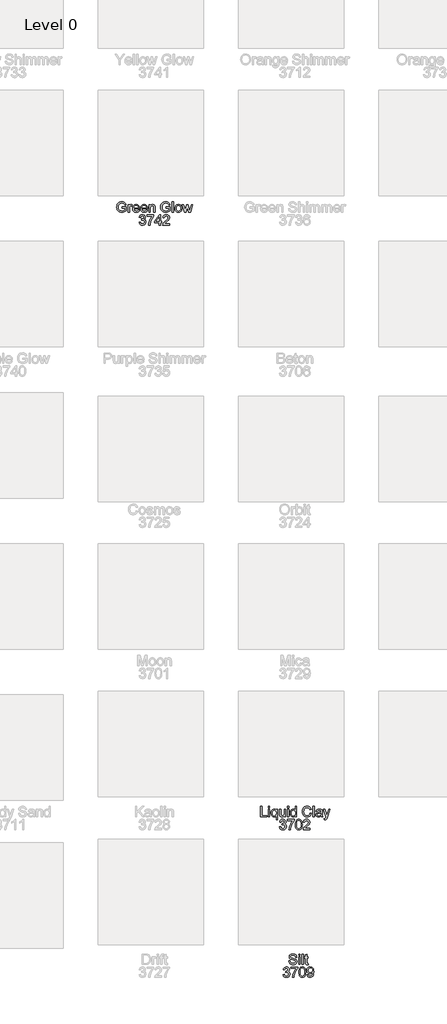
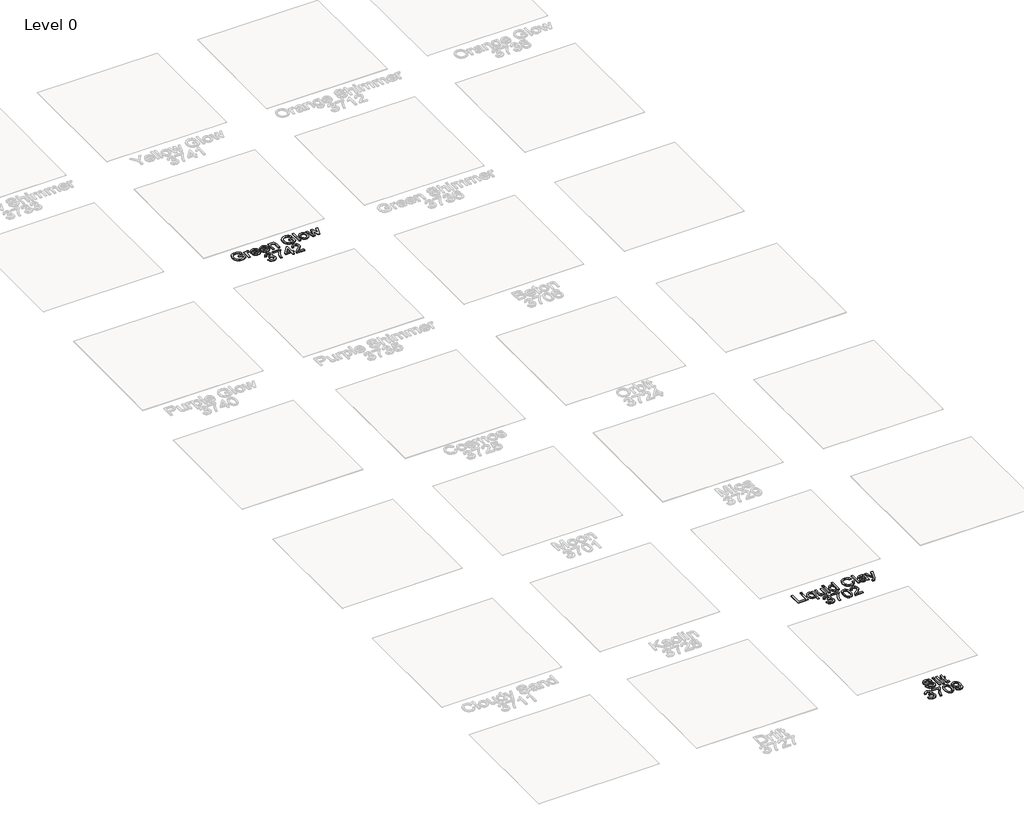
# One storey, part 6 of 14: 3 proxies.
"""IFC4 building model written with IfcOpenShell, lengths in millimetres."""

from ifc_helpers import new_model, si_unit, origin, origin_with_axes, place, context, project, spatial, polyline, outline, extrude, element, save

model = new_model("IFC4")

# Units and contexts
model_context = context("Model", 3, world=origin())
ifc_project = project(units=[si_unit("LENGTHUNIT", "METRE", prefix="MILLI")], contexts=[model_context])

# Site, building, storey
site = spatial("IfcSite", under=ifc_project)
building = spatial("IfcBuilding", under=site)
storey = spatial("IfcBuildingStorey", under=building, Name="Level 0", Elevation=0.0)

# Proxies
placement = place(None, origin())
element("IfcBuildingElementProxy", 1, Name="300mm Arial", ObjectType="300mm Arial", at=placement, inside=storey, context=model_context, shape_type="SweptSolid", body=[
    extrude(outline(polyline([(-4770.806034, -2021.7884025), (-4770.806034, -1984.8653255), (-4650.806034, -1984.8653255), (-4650.806034, -2095.2739794), (-4679.9676927, -2115.5564313), (-4710.0488225, -2130.1057102), (-4740.9773081, -2138.8677294), (-4772.681034, -2141.7884025), (-4814.1023081, -2137.1459746), (-4851.5392071, -2123.2186909), (-4882.6389667, -2100.4933304), (-4905.0488225, -2069.4566717), (-4918.5975004, -2032.2271044), (-4923.1137264, -1990.9230179), (-4918.6155292, -1949.3214554), (-4905.1209379, -1910.6225371), (-4883.1888465, -1878.1615996), (-4853.3781494, -1855.2739794), (-4817.0680533, -1841.6982582), (-4775.6377648, -1837.1730179), (-4745.2231014, -1839.796215), (-4717.8733417, -1847.6658063), (-4694.8414908, -1860.2138832), (-4677.3805533, -1876.8725371), (-4664.462885, -1898.4440515), (-4655.0608417, -1925.7307102), (-4689.0993033, -1935.3220563), (-4696.6984619, -1915.8599169), (-4705.9382456, -1901.1754217), (-4718.1618033, -1890.1057102), (-4734.712284, -1881.4879217), (-4754.4448562, -1875.9440515), (-4776.2146879, -1874.0960948), (-4801.6984619, -1876.0882823), (-4823.4863225, -1882.0648448), (-4841.4971398, -1891.2775852), (-4855.649784, -1902.9783063), (-4874.6521879, -1931.4278255), (-4883.306034, -1959.3004217), (-4886.1906494, -1989.4085948), (-4882.7200965, -2024.71809), (-4872.3084379, -2053.7715755), (-4855.2711783, -2076.3617198), (-4831.9238225, -2092.2811909), (-4804.6011062, -2101.7192919), (-4775.6377648, -2104.8653255), (-4750.0638465, -2102.4945323), (-4725.1209379, -2095.3821525), (-4703.4592792, -2085.5834746), (-4687.729111, -2075.1537871), (-4687.729111, -2021.7884025), (-4770.806034, -2021.7884025)])), origin_with_axes(), (0.0, 0.0, 1.0), 20.0),
    extrude(outline(polyline([(-4595.4214187, -2137.1730179), (-4595.4214187, -1920.2499409), (-4563.1137264, -1920.2499409), (-4563.1137264, -1952.3412871), (-4551.1786302, -1933.7355179), (-4540.181034, -1922.7739794), (-4529.1473802, -1917.4194121), (-4517.104111, -1915.6345563), (-4498.7146879, -1918.483114), (-4480.0368033, -1927.0287871), (-4492.368534, -1960.1297486), (-4505.3493033, -1954.4506621), (-4518.3300725, -1952.5576332), (-4529.3547119, -1954.3785467), (-4539.2074764, -1959.8412871), (-4547.1672119, -1968.5311909), (-4552.5127648, -1980.0335948), (-4557.0019475, -2000.6585948), (-4558.4983417, -2023.1585948), (-4558.4983417, -2137.1730179), (-4595.4214187, -2137.1730179)])), origin_with_axes(), (0.0, 0.0, 1.0), 20.0),
    extrude(outline(polyline([(-4305.0848802, -2072.5576332), (-4268.8829571, -2077.1730179), (-4281.9268273, -2104.4506621), (-4302.7411302, -2124.8412871), (-4330.8571158, -2137.5516236), (-4365.806034, -2141.7884025), (-4388.7161903, -2139.9607282), (-4409.1293514, -2134.4777054), (-4427.0455172, -2125.339334), (-4442.4646879, -2112.545614), (-4454.8640268, -2096.4526152), (-4463.7206975, -2077.4164073), (-4469.0346999, -2055.4369902), (-4470.806034, -2030.514364), (-4469.0166711, -2004.7466356), (-4463.6485821, -1982.0347967), (-4454.7017672, -1962.3788472), (-4442.1762264, -1945.7787871), (-4426.7976206, -1932.5906861), (-4409.291611, -1923.170614), (-4389.6581975, -1917.5185707), (-4367.8973802, -1915.6345563), (-4346.8374343, -1917.5140635), (-4327.7922119, -1923.1525852), (-4310.7617131, -1932.5501212), (-4295.7459379, -1945.7066717), (-4283.4885761, -1962.2706741), (-4274.7333177, -1981.8905659), (-4269.4801627, -2004.5663472), (-4267.729111, -2030.2980179), (-4267.9454571, -2040.2499409), (-4433.8829571, -2040.2499409), (-4427.4917312, -2067.8881621), (-4412.6449764, -2088.2066717), (-4391.2176927, -2100.7006621), (-4365.0848802, -2104.8653255), (-4345.4334379, -2102.936239), (-4328.8829571, -2097.1489794), (-4315.4334379, -2087.1429698), (-4305.0848802, -2072.5576332)]), holes=[polyline([(-4433.8829571, -2003.326864), (-4304.6521879, -2003.326864), (-4309.6461783, -1983.8196525), (-4319.4358417, -1969.8653255), (-4340.962284, -1956.8845563), (-4368.041611, -1952.5576332), (-4392.9304331, -1956.0101573), (-4413.510361, -1966.3677294), (-4427.8162504, -1982.5125611), (-4433.8829571, -2003.326864)])]), origin_with_axes(), (0.0, 0.0, 1.0), 20.0),
    extrude(outline(polyline([(-4078.931034, -2072.5576332), (-4042.729111, -2077.1730179), (-4055.7729812, -2104.4506621), (-4076.587284, -2124.8412871), (-4104.7032696, -2137.5516236), (-4139.6521879, -2141.7884025), (-4162.5623441, -2139.9607282), (-4182.9755052, -2134.4777054), (-4200.8916711, -2125.339334), (-4216.3108417, -2112.545614), (-4228.7101807, -2096.4526152), (-4237.5668514, -2077.4164073), (-4242.8808538, -2055.4369902), (-4244.6521879, -2030.514364), (-4242.8628249, -2004.7466356), (-4237.494736, -1982.0347967), (-4228.5479211, -1962.3788472), (-4216.0223802, -1945.7787871), (-4200.6437744, -1932.5906861), (-4183.1377648, -1923.170614), (-4163.5043514, -1917.5185707), (-4141.743534, -1915.6345563), (-4120.6835881, -1917.5140635), (-4101.6383658, -1923.1525852), (-4084.607867, -1932.5501212), (-4069.5920917, -1945.7066717), (-4057.33473, -1962.2706741), (-4048.5794715, -1981.8905659), (-4043.3263165, -2004.5663472), (-4041.5752648, -2030.2980179), (-4041.791611, -2040.2499409), (-4207.729111, -2040.2499409), (-4201.337885, -2067.8881621), (-4186.4911302, -2088.2066717), (-4165.0638465, -2100.7006621), (-4138.931034, -2104.8653255), (-4119.2795917, -2102.936239), (-4102.729111, -2097.1489794), (-4089.2795917, -2087.1429698), (-4078.931034, -2072.5576332)]), holes=[polyline([(-4207.729111, -2003.326864), (-4078.4983417, -2003.326864), (-4083.4923321, -1983.8196525), (-4093.2819956, -1969.8653255), (-4114.8084379, -1956.8845563), (-4141.8877648, -1952.5576332), (-4166.7765869, -1956.0101573), (-4187.3565148, -1966.3677294), (-4201.6624042, -1982.5125611), (-4207.729111, -2003.326864)])]), origin_with_axes(), (0.0, 0.0, 1.0), 20.0),
    extrude(outline(polyline([(-4004.6521879, -2137.1730179), (-4004.6521879, -1920.2499409), (-3967.729111, -1920.2499409), (-3967.729111, -1950.5384025), (-3954.9015869, -1935.2679698), (-3939.4959379, -1924.3605179), (-3921.5121639, -1917.8160467), (-3900.9502648, -1915.6345563), (-3882.7501446, -1917.3923688), (-3866.0824764, -1922.6658063), (-3852.182236, -1930.7968159), (-3842.2843994, -1941.1273448), (-3831.2146879, -1968.2787871), (-3829.2675725, -2003.9759025), (-3829.2675725, -2137.1730179), (-3866.1906494, -2137.1730179), (-3866.1906494, -2008.951864), (-3870.4454571, -1976.2835948), (-3876.3318754, -1966.5570323), (-3885.4815148, -1959.0119602), (-3897.2092792, -1954.171215), (-3910.8300725, -1952.5576332), (-3932.4556735, -1956.1814313), (-3950.8901687, -1967.0528255), (-3958.2572059, -1975.9275251), (-3963.5193754, -1988.0564313), (-3967.729111, -2022.076864), (-3967.729111, -2137.1730179), (-4004.6521879, -2137.1730179)])), origin_with_axes(), (0.0, 0.0, 1.0), 20.0),
    extrude(outline(polyline([(-3520.0368033, -2021.7884025), (-3520.0368033, -1984.8653255), (-3400.0368033, -1984.8653255), (-3400.0368033, -2095.2739794), (-3429.1984619, -2115.5564313), (-3459.2795917, -2130.1057102), (-3490.2080773, -2138.8677294), (-3521.9118033, -2141.7884025), (-3563.3330773, -2137.1459746), (-3600.7699764, -2123.2186909), (-3631.869736, -2100.4933304), (-3654.2795917, -2069.4566717), (-3667.8282696, -2032.2271044), (-3672.3444956, -1990.9230179), (-3667.8462985, -1949.3214554), (-3654.3517071, -1910.6225371), (-3632.4196158, -1878.1615996), (-3602.6089187, -1855.2739794), (-3566.2988225, -1841.6982582), (-3524.868534, -1837.1730179), (-3494.4538706, -1839.796215), (-3467.104111, -1847.6658063), (-3444.07226, -1860.2138832), (-3426.6113225, -1876.8725371), (-3413.6936542, -1898.4440515), (-3404.291611, -1925.7307102), (-3438.3300725, -1935.3220563), (-3445.9292312, -1915.8599169), (-3455.1690148, -1901.1754217), (-3467.3925725, -1890.1057102), (-3483.9430533, -1881.4879217), (-3503.6756254, -1875.9440515), (-3525.4454571, -1874.0960948), (-3550.9292312, -1876.0882823), (-3572.7170917, -1882.0648448), (-3590.727909, -1891.2775852), (-3604.8805533, -1902.9783063), (-3623.8829571, -1931.4278255), (-3632.5368033, -1959.3004217), (-3635.4214187, -1989.4085948), (-3631.9508658, -2024.71809), (-3621.5392071, -2053.7715755), (-3604.5019475, -2076.3617198), (-3581.1545917, -2092.2811909), (-3553.8318754, -2101.7192919), (-3524.868534, -2104.8653255), (-3499.2946158, -2102.4945323), (-3474.3517071, -2095.3821525), (-3452.6900485, -2085.5834746), (-3436.9598802, -2075.1537871), (-3436.9598802, -2021.7884025), (-3520.0368033, -2021.7884025)])), origin_with_axes(), (0.0, 0.0, 1.0), 20.0),
    extrude(outline(polyline([(-3344.6521879, -2137.1730179), (-3344.6521879, -1841.7884025), (-3307.729111, -1841.7884025), (-3307.729111, -2137.1730179), (-3344.6521879, -2137.1730179)])), origin_with_axes(), (0.0, 0.0, 1.0), 20.0),
    extrude(outline(polyline([(-3261.5752648, -2028.7114794), (-3259.5785701, -2000.6180299), (-3253.588486, -1976.4097967), (-3243.6050124, -1956.0867799), (-3229.6281494, -1939.6489794), (-3215.556635, -1929.1426693), (-3200.024784, -1921.6381621), (-3183.0325965, -1917.1354578), (-3164.5800725, -1915.6345563), (-3144.20973, -1917.4622306), (-3125.79101, -1922.9452534), (-3109.3239127, -1932.0836248), (-3094.8084379, -1944.8773448), (-3082.9612324, -1960.893721), (-3074.4989427, -1979.7000611), (-3069.4215689, -2001.2963652), (-3067.729111, -2025.6826332), (-3070.7218994, -2062.9843159), (-3079.7002648, -2091.3797486), (-3094.4027889, -2112.6447727), (-3114.5680533, -2128.5552294), (-3138.5193754, -2138.4801092), (-3164.5800725, -2141.7884025), (-3185.247891, -2139.967489), (-3203.837885, -2134.5047486), (-3220.3500545, -2125.4001813), (-3234.7843994, -2112.6537871), (-3246.505403, -2096.4819121), (-3254.8775485, -2077.1009025), (-3259.9008357, -2054.5107582), (-3261.5752648, -2028.7114794)]), holes=[polyline([(-3224.6521879, -2028.639364), (-3220.3793514, -2062.0558304), (-3207.5608417, -2085.8629217), (-3188.2699764, -2100.1147246), (-3164.5800725, -2104.8653255), (-3140.9983417, -2100.0876813), (-3121.743534, -2085.7547486), (-3108.9250244, -2061.6321525), (-3104.6521879, -2027.4855179), (-3108.9520677, -1995.0426092), (-3121.8517071, -1971.5600371), (-3141.1335581, -1957.3082342), (-3164.5800725, -1952.5576332), (-3188.2699764, -1957.2902054), (-3207.5608417, -1971.4879217), (-3220.3793514, -1995.2409265), (-3224.6521879, -2028.639364)])]), origin_with_axes(), (0.0, 0.0, 1.0), 20.0),
    extrude(outline(polyline([(-2990.2050725, -2137.1730179), (-3056.1906494, -1920.2499409), (-3017.8252648, -1920.2499409), (-2980.3973802, -2046.8124409), (-2969.2194956, -2092.0287871), (-2960.0608417, -2048.4710948), (-2930.2771879, -1920.2499409), (-2886.2868033, -1920.2499409), (-2856.6473802, -2048.1105179), (-2848.4983417, -2087.5576332), (-2836.8156494, -2045.9470563), (-2799.3156494, -1920.2499409), (-2760.806034, -1920.2499409), (-2827.2964187, -2137.1730179), (-2871.9358417, -2137.1730179), (-2900.2771879, -2009.9614794), (-2908.4983417, -1970.2980179), (-2945.0608417, -2137.1730179), (-2990.2050725, -2137.1730179)])), origin_with_axes(), (0.0, 0.0, 1.0), 20.0),
    extrude(outline(polyline([(-4286.1906494, -2423.326864), (-4249.2675725, -2418.7114794), (-4241.0013465, -2441.9146044), (-4228.8949764, -2457.5816717), (-4212.35351, -2466.5059505), (-4190.7819956, -2469.4807102), (-4165.4694956, -2465.3881621), (-4145.9262264, -2453.1105179), (-4133.432236, -2434.7932102), (-4129.2675725, -2412.5816717), (-4133.3961783, -2391.4969361), (-4145.7819956, -2374.3965755), (-4164.5319956, -2363.0654457), (-4187.7531494, -2359.2884025), (-4213.6425725, -2363.326864), (-4209.5319956, -2326.4037871), (-4203.618534, -2326.8364794), (-4181.4971398, -2324.186239), (-4161.7194956, -2316.2355179), (-4147.7651687, -2302.7859986), (-4143.1137264, -2283.639364), (-4146.4851206, -2267.6928496), (-4156.5993033, -2254.7571525), (-4172.0319956, -2246.1844361), (-4191.3589187, -2243.326864), (-4210.7218994, -2246.2114794), (-4226.5512264, -2254.8653255), (-4238.1077167, -2269.2884025), (-4244.6521879, -2289.4807102), (-4281.5752648, -2284.8653255), (-4270.7038706, -2251.7102775), (-4251.3589187, -2226.9566717), (-4224.8925725, -2211.5420082), (-4192.6569956, -2206.4037871), (-4169.4448562, -2208.93684), (-4148.1257456, -2216.5359986), (-4130.150986, -2228.5251813), (-4116.9718994, -2244.2283063), (-4108.8859619, -2262.3202534), (-4106.1906494, -2281.4759025), (-4108.7507456, -2299.3244602), (-4116.431034, -2315.514364), (-4129.1233417, -2329.3064313), (-4146.7194956, -2339.9614794), (-4123.6065148, -2349.3004217), (-4106.479111, -2365.201864), (-4095.8781494, -2386.8004217), (-4092.3444956, -2413.2307102), (-4094.1113225, -2431.9626813), (-4099.4118033, -2449.2162871), (-4108.2459379, -2464.9915275), (-4120.6137264, -2479.2884025), (-4135.6813345, -2491.1513832), (-4152.6149283, -2499.6249409), (-4171.4145076, -2504.7090755), (-4192.0800725, -2506.4037871), (-4227.7771879, -2500.6165275), (-4243.1377648, -2493.3824529), (-4256.8396879, -2483.2547486), (-4268.3285701, -2470.8283664), (-4277.0500244, -2456.6982582), (-4286.1906494, -2423.326864)])), origin_with_axes(), (0.0, 0.0, 1.0), 20.0),
    extrude(outline(polyline([(-4060.0368033, -2247.9422486), (-4060.0368033, -2211.0191717), (-3866.1906494, -2211.0191717), (-3866.1906494, -2240.8749409), (-3893.8198562, -2275.841888), (-3921.1786302, -2320.3100371), (-3945.3102408, -2370.2228977), (-3963.2579571, -2421.5239794), (-3972.056034, -2459.9073929), (-3976.9598802, -2501.7884025), (-4013.8829571, -2501.7884025), (-4009.8895677, -2463.7295082), (-3999.2074764, -2418.4951332), (-3982.1251446, -2370.5474169), (-3958.931034, -2324.3484986), (-3931.8517071, -2282.5846765), (-3903.1137264, -2247.9422486), (-4060.0368033, -2247.9422486)])), origin_with_axes(), (0.0, 0.0, 1.0), 20.0),
    extrude(outline(polyline([(-3713.8829571, -2501.7884025), (-3713.8829571, -2432.5576332), (-3847.729111, -2432.5576332), (-3847.729111, -2395.6345563), (-3704.6521879, -2211.0191717), (-3676.9598802, -2211.0191717), (-3676.9598802, -2395.6345563), (-3640.0368033, -2395.6345563), (-3640.0368033, -2432.5576332), (-3676.9598802, -2432.5576332), (-3676.9598802, -2501.7884025), (-3713.8829571, -2501.7884025)]), holes=[polyline([(-3713.8829571, -2395.6345563), (-3713.8829571, -2281.5480179), (-3802.2964187, -2395.6345563), (-3713.8829571, -2395.6345563)])]), origin_with_axes(), (0.0, 0.0, 1.0), 20.0),
    extrude(outline(polyline([(-3418.4983417, -2464.8653255), (-3418.4983417, -2501.7884025), (-3612.3444956, -2501.7884025), (-3608.3781494, -2476.3316717), (-3599.2735821, -2456.43684), (-3585.9502648, -2437.1369602), (-3566.6774283, -2416.935638), (-3539.7243033, -2394.3364794), (-3499.8805533, -2358.9458544), (-3475.9743033, -2332.8220563), (-3464.0211783, -2311.6201332), (-3460.0368033, -2290.9951332), (-3463.7958177, -2272.5065515), (-3475.072861, -2257.1369602), (-3492.4075965, -2246.779388), (-3514.3396879, -2243.326864), (-3537.3715389, -2246.6982582), (-3555.2651687, -2256.8124409), (-3566.8126446, -2272.8761429), (-3570.806034, -2294.0960948), (-3607.729111, -2289.4807102), (-3598.7777889, -2253.7655659), (-3590.4011362, -2239.5182703), (-3579.4238225, -2227.6778255), (-3566.0982516, -2218.3704337), (-3550.6768273, -2211.7222967), (-3513.5464187, -2206.4037871), (-3493.7575064, -2207.8821525), (-3476.1455773, -2212.3172486), (-3460.7106314, -2219.7090755), (-3447.4526687, -2230.0576332), (-3436.8043814, -2242.5966957), (-3429.1984619, -2256.5600371), (-3424.6349102, -2271.9476573), (-3423.1137264, -2288.7595563), (-3424.7543514, -2306.4188111), (-3429.6762264, -2323.7715755), (-3438.4112023, -2341.4218159), (-3451.4911302, -2359.9734986), (-3472.3414908, -2382.1219361), (-3504.3877648, -2410.5624409), (-3546.8637264, -2446.0792679), (-3563.5223802, -2464.8653255), (-3418.4983417, -2464.8653255)])), origin_with_axes(), (0.0, 0.0, 1.0), 20.0),
])
element("IfcBuildingElementProxy", 2, Name="300mm Arial", ObjectType="300mm Arial", at=placement, inside=storey, context=model_context, shape_type="SweptSolid", body=[
    extrude(outline(polyline([(-828.4983417, -19337.1730179), (-828.4983417, -19041.7884025), (-791.5752648, -19041.7884025), (-791.5752648, -19300.2499409), (-643.8829571, -19300.2499409), (-643.8829571, -19337.1730179), (-828.4983417, -19337.1730179)])), origin_with_axes(), (0.0, 0.0, 1.0), 20.0),
    extrude(outline(polyline([(-606.9598802, -19078.7114794), (-606.9598802, -19041.7884025), (-570.0368033, -19041.7884025), (-570.0368033, -19078.7114794), (-606.9598802, -19078.7114794)])), origin_with_axes(), (0.0, 0.0, 1.0), 20.0),
    extrude(outline(polyline([(-606.9598802, -19337.1730179), (-606.9598802, -19120.2499409), (-570.0368033, -19120.2499409), (-570.0368033, -19337.1730179), (-606.9598802, -19337.1730179)])), origin_with_axes(), (0.0, 0.0, 1.0), 20.0),
    extrude(outline(polyline([(-380.806034, -19420.2499409), (-380.806034, -19307.6057102), (-390.8481014, -19321.0732582), (-404.243534, -19332.0528255), (-419.7843994, -19339.3545082), (-436.2627648, -19341.7884025), (-454.4673922, -19339.8660767), (-471.3649283, -19334.0990996), (-486.955373, -19324.487471), (-501.2387264, -19311.0311909), (-513.1648081, -19294.2260527), (-521.6834379, -19274.5678496), (-526.7946158, -19252.0565816), (-528.4983417, -19226.6922486), (-525.7940148, -19195.7727775), (-517.681034, -19168.2066717), (-504.4298321, -19145.4542679), (-486.3108417, -19128.9759025), (-464.7663706, -19118.9698929), (-441.2387264, -19115.6345563), (-423.0476206, -19118.2216957), (-406.9118033, -19125.983114), (-392.8312744, -19138.9188111), (-380.806034, -19157.0287871), (-380.806034, -19120.2499409), (-343.8829571, -19120.2499409), (-343.8829571, -19420.2499409), (-380.806034, -19420.2499409)]), holes=[polyline([(-491.5752648, -19228.7114794), (-487.4196158, -19262.0287871), (-474.9526687, -19285.826864), (-456.6804331, -19300.1057102), (-435.1089187, -19304.8653255), (-414.4388465, -19300.3400852), (-396.8517071, -19286.764364), (-384.8174523, -19263.9398448), (-380.806034, -19231.6682102), (-385.0337985, -19197.170013), (-397.7170917, -19172.4254217), (-416.0975004, -19157.5245804), (-437.416611, -19152.5576332), (-458.3390869, -19157.1820323), (-475.8180533, -19171.0552294), (-487.6359619, -19194.71809), (-491.5752648, -19228.7114794)])]), origin_with_axes(), (0.0, 0.0, 1.0), 20.0),
    extrude(outline(polyline([(-150.0368033, -19337.1730179), (-150.0368033, -19299.889364), (-163.3961783, -19318.2201933), (-178.9550725, -19331.3136429), (-196.713486, -19339.1697126), (-216.6714187, -19341.7884025), (-234.6551927, -19339.9494602), (-251.3949764, -19334.4326332), (-265.4394475, -19326.139364), (-275.337284, -19315.9710948), (-286.3348802, -19288.7835948), (-288.4983417, -19254.4566717), (-288.4983417, -19120.2499409), (-251.5752648, -19120.2499409), (-251.5752648, -19237.076864), (-249.3396879, -19274.7210948), (-243.9580773, -19287.2781861), (-234.7363225, -19296.8244602), (-222.2874042, -19302.8551092), (-207.2243033, -19304.8653255), (-191.2958177, -19302.8100371), (-176.3949764, -19296.6441717), (-164.1083177, -19286.935638), (-156.0223802, -19274.2523448), (-151.5331975, -19256.8815515), (-150.0368033, -19233.1105179), (-150.0368033, -19120.2499409), (-113.1137264, -19120.2499409), (-113.1137264, -19337.1730179), (-150.0368033, -19337.1730179)])), origin_with_axes(), (0.0, 0.0, 1.0), 20.0),
    extrude(outline(polyline([(-62.3444956, -19078.7114794), (-62.3444956, -19041.7884025), (-25.4214187, -19041.7884025), (-25.4214187, -19078.7114794), (-62.3444956, -19078.7114794)])), origin_with_axes(), (0.0, 0.0, 1.0), 20.0),
    extrude(outline(polyline([(-62.3444956, -19337.1730179), (-62.3444956, -19120.2499409), (-25.4214187, -19120.2499409), (-25.4214187, -19337.1730179), (-62.3444956, -19337.1730179)])), origin_with_axes(), (0.0, 0.0, 1.0), 20.0),
    extrude(outline(polyline([(163.8093506, -19337.1730179), (163.8093506, -19302.3412871), (152.7621751, -19319.5994001), (139.380264, -19331.9266236), (123.6636174, -19339.3229578), (105.6122352, -19341.7884025), (81.7420429, -19338.2186909), (59.8910813, -19327.5095563), (41.3934852, -19310.4091957), (27.583389, -19287.6658063), (18.9836294, -19260.1988592), (16.1170429, -19228.9278255), (18.7582688, -19198.0444121), (26.6819467, -19170.1537871), (39.8790621, -19146.842489), (58.3406006, -19129.6970563), (80.6693265, -19119.1501813), (105.4680044, -19115.6345563), (123.5329083, -19118.1495804), (139.506466, -19125.6946525), (153.0461294, -19137.2601573), (163.8093506, -19151.8364794), (163.8093506, -19041.7884025), (200.7324275, -19041.7884025), (200.7324275, -19337.1730179), (163.8093506, -19337.1730179)]), holes=[polyline([(53.0401198, -19228.7835948), (57.2047833, -19262.1820323), (69.6987736, -19285.9350371), (87.8538217, -19300.1327534), (109.0016583, -19304.8653255), (130.1404804, -19300.3490996), (147.8357929, -19286.8004217), (159.8159611, -19263.966888), (163.8093506, -19231.5960948), (159.7438458, -19196.2054698), (147.5473313, -19171.6682102), (129.4012977, -19157.3352775), (107.4872352, -19152.5576332), (86.1230525, -19157.1459746), (68.6170429, -19170.9109986), (56.9343506, -19194.5558304), (53.0401198, -19228.7835948)])]), origin_with_axes(), (0.0, 0.0, 1.0), 20.0),
    extrude(outline(polyline([(583.8093506, -19232.1730179), (620.7324275, -19241.6922486), (613.4262376, -19264.6542378), (603.6951679, -19284.71809), (591.5392184, -19301.8838051), (576.958389, -19316.1513832), (560.2817063, -19327.3675792), (541.8381967, -19335.3791477), (521.6278602, -19340.1860888), (499.6506967, -19341.7884025), (456.8231727, -19336.9386429), (422.8117544, -19322.389364), (396.7420429, -19298.6453736), (377.739639, -19266.2114794), (366.1380765, -19228.0804698), (362.270889, -19187.2451332), (366.6428842, -19144.1742198), (379.7588698, -19106.9807102), (400.9337496, -19076.8454938), (429.4824275, -19054.9494602), (463.3406006, -19041.6171284), (500.443966, -19037.1730179), (540.92774, -19042.9242198), (558.5396691, -19050.1132222), (574.3982929, -19060.1778255), (588.2421931, -19072.8521044), (599.8099515, -19087.8701332), (616.1170429, -19124.9374409), (579.193966, -19133.7355179), (566.3934852, -19106.8094361), (548.9055044, -19088.3388832), (526.5136775, -19077.6567919), (499.0016583, -19074.0960948), (467.2889179, -19078.0444121), (441.2372352, -19089.889364), (421.4686054, -19108.3869602), (408.6050236, -19132.2932102), (401.5467304, -19159.3184505), (399.193966, -19187.1730179), (401.9794227, -19221.2835948), (410.3357929, -19250.7787871), (424.5785813, -19274.5317919), (445.0232929, -19291.4158063), (469.5335092, -19301.5029457), (495.9728121, -19304.8653255), (526.7931246, -19300.2859986), (552.475216, -19286.5480179), (571.86524, -19263.795614), (583.8093506, -19232.1730179)])), origin_with_axes(), (0.0, 0.0, 1.0), 20.0),
    extrude(outline(polyline([(666.8862736, -19337.1730179), (666.8862736, -19041.7884025), (703.8093506, -19041.7884025), (703.8093506, -19337.1730179), (666.8862736, -19337.1730179)])), origin_with_axes(), (0.0, 0.0, 1.0), 20.0),
    extrude(outline(polyline([(897.6555044, -19309.4807102), (880.0142785, -19324.6069121), (861.850216, -19334.5047486), (842.7486535, -19339.967489), (822.2949275, -19341.7884025), (791.4385573, -19337.4073929), (768.677139, -19324.264364), (754.6416823, -19304.3064313), (749.9631967, -19279.4807102), (751.7300236, -19264.1742198), (757.0305044, -19250.2739794), (765.2065861, -19238.3749409), (775.600216, -19229.0720563), (801.4535813, -19216.9566717), (833.4006967, -19211.4037871), (871.1531006, -19205.5624409), (897.4391583, -19198.7114794), (897.6555044, -19190.4903255), (895.1134371, -19174.0119602), (887.4872352, -19163.2307102), (870.4319467, -19155.2259025), (846.6699275, -19152.5576332), (824.6747352, -19154.3334746), (809.3141583, -19159.6609986), (798.8393986, -19169.513763), (791.5016583, -19184.8653255), (754.5785813, -19180.2499409), (760.9878361, -19160.0576332), (770.552139, -19144.1922486), (784.1639179, -19132.0588352), (802.7156006, -19123.0624409), (825.4049035, -19117.4915275), (851.4295429, -19115.6345563), (876.3904804, -19117.2751813), (896.177139, -19122.1970563), (911.0960092, -19129.5978977), (921.4535813, -19138.6754217), (928.3225717, -19149.8983784), (932.7756967, -19163.7355179), (934.5785813, -19196.0432102), (934.5785813, -19241.9807102), (936.4535813, -19306.1273448), (943.8093506, -19337.1730179), (906.8862736, -19337.1730179), (897.6555044, -19309.4807102)]), holes=[polyline([(897.6555044, -19235.6345563), (838.0881967, -19246.9566717), (806.3213698, -19252.9422486), (791.9343506, -19262.6778255), (786.8862736, -19276.8845563), (789.6356727, -19287.8641236), (797.8838698, -19296.8605179), (811.4505765, -19302.8641236), (830.1555044, -19304.8653255), (849.9872352, -19302.6567919), (867.5112736, -19296.0311909), (881.7180044, -19286.2685707), (891.5978121, -19274.6489794), (895.9788217, -19262.6778255), (897.4391583, -19246.0912871), (897.6555044, -19235.6345563)])]), origin_with_axes(), (0.0, 0.0, 1.0), 20.0),
    extrude(outline(polyline([(985.3478121, -19420.2499409), (980.7324275, -19384.6970563), (999.4824275, -19387.9422486), (1017.006466, -19383.8677294), (1027.7516583, -19372.5095563), (1037.8478121, -19345.3220563), (1040.7324275, -19336.3797486), (962.270889, -19120.2499409), (1001.2131967, -19120.2499409), (1042.8237736, -19240.6826332), (1057.318966, -19288.8557102), (1071.8141583, -19246.3076332), (1114.5785813, -19120.2499409), (1153.2324275, -19120.2499409), (1077.7276198, -19342.3653255), (1058.1122352, -19390.5384025), (1048.0701679, -19405.9170082), (1036.693966, -19416.5720563), (1023.4788217, -19422.7920082), (1007.9199275, -19424.8653255), (985.3478121, -19420.2499409)])), origin_with_axes(), (0.0, 0.0, 1.0), 20.0),
    extrude(outline(polyline([(-286.1906494, -19623.326864), (-249.2675725, -19618.7114794), (-241.0013465, -19641.9146044), (-228.8949764, -19657.5816717), (-212.35351, -19666.5059505), (-190.7819956, -19669.4807102), (-165.4694956, -19665.3881621), (-145.9262264, -19653.1105179), (-133.432236, -19634.7932102), (-129.2675725, -19612.5816717), (-133.3961783, -19591.4969361), (-145.7819956, -19574.3965755), (-164.5319956, -19563.0654457), (-187.7531494, -19559.2884025), (-213.6425725, -19563.326864), (-209.5319956, -19526.4037871), (-203.618534, -19526.8364794), (-181.4971398, -19524.186239), (-161.7194956, -19516.2355179), (-147.7651687, -19502.7859986), (-143.1137264, -19483.639364), (-146.4851206, -19467.6928496), (-156.5993033, -19454.7571525), (-172.0319956, -19446.1844361), (-191.3589187, -19443.326864), (-210.7218994, -19446.2114794), (-226.5512264, -19454.8653255), (-238.1077167, -19469.2884025), (-244.6521879, -19489.4807102), (-281.5752648, -19484.8653255), (-270.7038706, -19451.7102775), (-251.3589187, -19426.9566717), (-224.8925725, -19411.5420082), (-192.6569956, -19406.4037871), (-169.4448562, -19408.93684), (-148.1257456, -19416.5359986), (-130.150986, -19428.5251813), (-116.9718994, -19444.2283063), (-108.8859619, -19462.3202534), (-106.1906494, -19481.4759025), (-108.7507456, -19499.3244602), (-116.431034, -19515.514364), (-129.1233417, -19529.3064313), (-146.7194956, -19539.9614794), (-123.6065148, -19549.3004217), (-106.479111, -19565.201864), (-95.8781494, -19586.8004217), (-92.3444956, -19613.2307102), (-94.1113225, -19631.9626813), (-99.4118033, -19649.2162871), (-108.2459379, -19664.9915275), (-120.6137264, -19679.2884025), (-135.6813345, -19691.1513832), (-152.6149283, -19699.6249409), (-171.4145076, -19704.7090755), (-192.0800725, -19706.4037871), (-227.7771879, -19700.6165275), (-243.1377648, -19693.3824529), (-256.8396879, -19683.2547486), (-268.3285701, -19670.8283664), (-277.0500244, -19656.6982582), (-286.1906494, -19623.326864)])), origin_with_axes(), (0.0, 0.0, 1.0), 20.0),
    extrude(outline(polyline([(-60.0368033, -19447.9422486), (-60.0368033, -19411.0191717), (133.8093506, -19411.0191717), (133.8093506, -19440.8749409), (106.1801438, -19475.841888), (78.8213698, -19520.3100371), (54.6897592, -19570.2228977), (36.7420429, -19621.5239794), (27.943966, -19659.9073929), (23.0401198, -19701.7884025), (-13.8829571, -19701.7884025), (-9.8895677, -19663.7295082), (0.7925236, -19618.4951332), (17.8748554, -19570.5474169), (41.068966, -19524.3484986), (68.1482929, -19482.5846765), (96.8862736, -19447.9422486), (-60.0368033, -19447.9422486)])), origin_with_axes(), (0.0, 0.0, 1.0), 20.0),
    extrude(outline(polyline([(166.1170429, -19556.4759025), (168.8303842, -19509.1952534), (176.9704083, -19471.4879217), (190.4559852, -19442.7769842), (209.2059852, -19422.4855179), (233.3556246, -19410.4242198), (263.0401198, -19406.4037871), (285.7925236, -19408.7835948), (306.1651198, -19415.9230179), (323.2023794, -19427.5426092), (335.9487736, -19443.3629217), (345.5761775, -19463.248739), (353.256466, -19487.0648448), (358.286514, -19517.3082342), (359.9631967, -19556.4759025), (357.2768986, -19603.4861188), (349.2180044, -19641.1033063), (335.8135573, -19669.8412871), (317.0906006, -19690.2138832), (292.8868746, -19702.3563111), (263.0401198, -19706.4037871), (242.7035813, -19704.6459746), (224.6747352, -19699.3725371), (208.9535813, -19690.5834746), (195.5401198, -19678.2787871), (182.6675236, -19656.0356981), (173.4728121, -19628.3208544), (167.9559852, -19595.1342558), (166.1170429, -19556.4759025)]), holes=[polyline([(203.0401198, -19556.4037871), (207.3670429, -19614.483715), (212.7756967, -19634.3492498), (220.3478121, -19648.0984986), (239.6747352, -19664.1351573), (263.0401198, -19669.4807102), (286.4055044, -19664.1171284), (305.7324275, -19648.0263832), (313.3045429, -19634.2545984), (318.7131967, -19614.3935707), (323.0401198, -19556.4037871), (318.8574275, -19499.6309505), (313.6290621, -19479.8307703), (306.3093506, -19465.7547486), (287.0184852, -19448.9338352), (262.6074275, -19443.326864), (239.4944467, -19448.2667679), (220.9247352, -19463.0864794), (213.100216, -19478.4109986), (207.5112736, -19499.0720563), (203.0401198, -19556.4037871)])]), origin_with_axes(), (0.0, 0.0, 1.0), 20.0),
    extrude(outline(polyline([(581.5016583, -19664.8653255), (581.5016583, -19701.7884025), (387.6555044, -19701.7884025), (391.6218506, -19676.3316717), (400.7264179, -19656.43684), (414.0497352, -19637.1369602), (433.3225717, -19616.935638), (460.2756967, -19594.3364794), (500.1194467, -19558.9458544), (524.0256967, -19532.8220563), (535.9788217, -19511.6201332), (539.9631967, -19490.9951332), (536.2041823, -19472.5065515), (524.927139, -19457.1369602), (507.5924035, -19446.779388), (485.6603121, -19443.326864), (462.6284611, -19446.6982582), (444.7348313, -19456.8124409), (433.1873554, -19472.8761429), (429.193966, -19494.0960948), (392.270889, -19489.4807102), (401.2222111, -19453.7655659), (409.5988638, -19439.5182703), (420.5761775, -19427.6778255), (433.9017484, -19418.3704337), (449.3231727, -19411.7222967), (486.4535813, -19406.4037871), (506.2424936, -19407.8821525), (523.8544227, -19412.3172486), (539.2893686, -19419.7090755), (552.5473313, -19430.0576332), (563.1956186, -19442.5966957), (570.8015381, -19456.5600371), (575.3650898, -19471.9476573), (576.8862736, -19488.7595563), (575.2456486, -19506.4188111), (570.3237736, -19523.7715755), (561.5887977, -19541.4218159), (548.5088698, -19559.9734986), (527.6585092, -19582.1219361), (495.6122352, -19610.5624409), (453.1362736, -19646.0792679), (436.4776198, -19664.8653255), (581.5016583, -19664.8653255)])), origin_with_axes(), (0.0, 0.0, 1.0), 20.0),
])
element("IfcBuildingElementProxy", 3, Name="300mm Arial", ObjectType="300mm Arial", at=placement, inside=storey, context=model_context, shape_type="SweptSolid", body=[
    extrude(outline(polyline([(-20.0368033, -23435.6345563), (16.8862736, -23435.6345563), (21.1230525, -23456.12434), (28.7853121, -23472.5936909), (40.7384371, -23485.6646044), (57.8478121, -23495.9590755), (78.7612736, -23502.638763), (102.1266583, -23504.8653255), (122.6975717, -23503.1796284), (140.708389, -23498.1225371), (155.30274, -23490.1177294), (165.6242544, -23479.5888832), (171.7630765, -23467.5005419), (173.8093506, -23454.8172486), (172.2768986, -23442.4584746), (167.6795429, -23431.7763832), (158.3406006, -23422.6628015), (142.583389, -23415.0095563), (88.8213698, -23400.9109986), (53.5299035, -23391.5810707), (30.9487736, -23382.701864), (12.568365, -23370.279989), (-0.4574764, -23355.2259025), (-8.2188946, -23337.8641236), (-10.806034, -23318.5191717), (-7.6059139, -23296.8935707), (1.9944467, -23276.7283063), (17.7426438, -23259.6369602), (39.3862736, -23247.233114), (65.365841, -23239.6880419), (94.1218506, -23237.1730179), (125.2756967, -23239.8052294), (152.5353121, -23247.701864), (174.927139, -23260.7006621), (191.4776198, -23278.639364), (201.9523794, -23300.4001813), (206.1170429, -23324.8653255), (169.193966, -23324.8653255), (162.4151198, -23302.8340755), (148.2805044, -23286.9326332), (126.1951679, -23277.3052294), (95.5641583, -23274.0960948), (64.2119948, -23277.2691717), (42.7035813, -23286.7884025), (30.2636775, -23300.7968159), (26.1170429, -23317.4374409), (29.0557448, -23331.6261429), (37.8718506, -23343.0384025), (58.7131967, -23353.2427294), (98.1603121, -23363.6634025), (163.4968506, -23382.1970563), (184.5455285, -23395.592489), (199.2300236, -23412.1249409), (207.8568265, -23431.6141236), (210.7324275, -23453.8797486), (207.4241342, -23476.6411669), (197.4992544, -23498.0504217), (181.3634371, -23516.4759025), (159.4223313, -23530.2859986), (133.037115, -23538.9128015), (103.568966, -23541.7884025), (67.3940861, -23538.6874409), (37.6194467, -23529.3845563), (13.9024996, -23513.8436909), (-4.0993033, -23492.0287871), (-15.6557937, -23465.4542679), (-20.0368033, -23435.6345563)])), origin_with_axes(), (0.0, 0.0, 1.0), 20.0),
    extrude(outline(polyline([(261.5016583, -23278.7114794), (261.5016583, -23241.7884025), (298.4247352, -23241.7884025), (298.4247352, -23278.7114794), (261.5016583, -23278.7114794)])), origin_with_axes(), (0.0, 0.0, 1.0), 20.0),
    extrude(outline(polyline([(261.5016583, -23537.1730179), (261.5016583, -23320.2499409), (298.4247352, -23320.2499409), (298.4247352, -23537.1730179), (261.5016583, -23537.1730179)])), origin_with_axes(), (0.0, 0.0, 1.0), 20.0),
    extrude(outline(polyline([(353.8093506, -23537.1730179), (353.8093506, -23241.7884025), (390.7324275, -23241.7884025), (390.7324275, -23537.1730179), (353.8093506, -23537.1730179)])), origin_with_axes(), (0.0, 0.0, 1.0), 20.0),
    extrude(outline(polyline([(524.5785813, -23506.3797486), (529.193966, -23538.2547486), (501.5737736, -23541.7884025), (483.8514179, -23540.2559505), (470.6362736, -23535.6585948), (461.2973313, -23528.5732582), (455.2035813, -23519.576864), (451.850216, -23504.1261429), (450.7324275, -23477.6778255), (450.7324275, -23357.1730179), (423.0401198, -23357.1730179), (423.0401198, -23320.2499409), (450.7324275, -23320.2499409), (450.7324275, -23267.5335948), (487.6555044, -23245.826864), (487.6555044, -23320.2499409), (524.5785813, -23320.2499409), (524.5785813, -23357.1730179), (487.6555044, -23357.1730179), (487.6555044, -23476.5960948), (489.6026198, -23495.6345563), (495.912716, -23502.3773448), (508.4968506, -23504.8653255), (524.5785813, -23506.3797486)])), origin_with_axes(), (0.0, 0.0, 1.0), 20.0),
    extrude(outline(polyline([(-186.1906494, -23823.326864), (-149.2675725, -23818.7114794), (-141.0013465, -23841.9146044), (-128.8949764, -23857.5816717), (-112.35351, -23866.5059505), (-90.7819956, -23869.4807102), (-65.4694956, -23865.3881621), (-45.9262264, -23853.1105179), (-33.432236, -23834.7932102), (-29.2675725, -23812.5816717), (-33.3961783, -23791.4969361), (-45.7819956, -23774.3965755), (-64.5319956, -23763.0654457), (-87.7531494, -23759.2884025), (-113.6425725, -23763.326864), (-109.5319956, -23726.4037871), (-103.618534, -23726.8364794), (-81.4971398, -23724.186239), (-61.7194956, -23716.2355179), (-47.7651687, -23702.7859986), (-43.1137264, -23683.639364), (-46.4851206, -23667.6928496), (-56.5993033, -23654.7571525), (-72.0319956, -23646.1844361), (-91.3589187, -23643.326864), (-110.7218994, -23646.2114794), (-126.5512264, -23654.8653255), (-138.1077167, -23669.2884025), (-144.6521879, -23689.4807102), (-181.5752648, -23684.8653255), (-170.7038706, -23651.7102775), (-151.3589187, -23626.9566717), (-124.8925725, -23611.5420082), (-92.6569956, -23606.4037871), (-69.4448562, -23608.93684), (-48.1257456, -23616.5359986), (-30.150986, -23628.5251813), (-16.9718994, -23644.2283063), (-8.8859619, -23662.3202534), (-6.1906494, -23681.4759025), (-8.7507456, -23699.3244602), (-16.431034, -23715.514364), (-29.1233417, -23729.3064313), (-46.7194956, -23739.9614794), (-23.6065148, -23749.3004217), (-6.479111, -23765.201864), (4.1218506, -23786.8004217), (7.6555044, -23813.2307102), (5.8886775, -23831.9626813), (0.5881967, -23849.2162871), (-8.2459379, -23864.9915275), (-20.6137264, -23879.2884025), (-35.6813345, -23891.1513832), (-52.6149283, -23899.6249409), (-71.4145076, -23904.7090755), (-92.0800725, -23906.4037871), (-127.7771879, -23900.6165275), (-143.1377648, -23893.3824529), (-156.8396879, -23883.2547486), (-168.3285701, -23870.8283664), (-177.0500244, -23856.6982582), (-186.1906494, -23823.326864)])), origin_with_axes(), (0.0, 0.0, 1.0), 20.0),
    extrude(outline(polyline([(39.9631967, -23647.9422486), (39.9631967, -23611.0191717), (233.8093506, -23611.0191717), (233.8093506, -23640.8749409), (206.1801438, -23675.841888), (178.8213698, -23720.3100371), (154.6897592, -23770.2228977), (136.7420429, -23821.5239794), (127.943966, -23859.9073929), (123.0401198, -23901.7884025), (86.1170429, -23901.7884025), (90.1104323, -23863.7295082), (100.7925236, -23818.4951332), (117.8748554, -23770.5474169), (141.068966, -23724.3484986), (168.1482929, -23682.5846765), (196.8862736, -23647.9422486), (39.9631967, -23647.9422486)])), origin_with_axes(), (0.0, 0.0, 1.0), 20.0),
    extrude(outline(polyline([(266.1170429, -23756.4759025), (268.8303842, -23709.1952534), (276.9704083, -23671.4879217), (290.4559852, -23642.7769842), (309.2059852, -23622.4855179), (333.3556246, -23610.4242198), (363.0401198, -23606.4037871), (385.7925236, -23608.7835948), (406.1651198, -23615.9230179), (423.2023794, -23627.5426092), (435.9487736, -23643.3629217), (445.5761775, -23663.248739), (453.256466, -23687.0648448), (458.286514, -23717.3082342), (459.9631967, -23756.4759025), (457.2768986, -23803.4861188), (449.2180044, -23841.1033063), (435.8135573, -23869.8412871), (417.0906006, -23890.2138832), (392.8868746, -23902.3563111), (363.0401198, -23906.4037871), (342.7035813, -23904.6459746), (324.6747352, -23899.3725371), (308.9535813, -23890.5834746), (295.5401198, -23878.2787871), (282.6675236, -23856.0356981), (273.4728121, -23828.3208544), (267.9559852, -23795.1342558), (266.1170429, -23756.4759025)]), holes=[polyline([(303.0401198, -23756.4037871), (307.3670429, -23814.483715), (312.7756967, -23834.3492498), (320.3478121, -23848.0984986), (339.6747352, -23864.1351573), (363.0401198, -23869.4807102), (386.4055044, -23864.1171284), (405.7324275, -23848.0263832), (413.3045429, -23834.2545984), (418.7131967, -23814.3935707), (423.0401198, -23756.4037871), (418.8574275, -23699.6309505), (413.6290621, -23679.8307703), (406.3093506, -23665.7547486), (387.0184852, -23648.9338352), (362.6074275, -23643.326864), (339.4944467, -23648.2667679), (320.9247352, -23663.0864794), (313.100216, -23678.4109986), (307.5112736, -23699.0720563), (303.0401198, -23756.4037871)])]), origin_with_axes(), (0.0, 0.0, 1.0), 20.0),
    extrude(outline(polyline([(496.8862736, -23827.9422486), (533.8093506, -23823.326864), (540.1194467, -23844.2853977), (550.395889, -23858.5552294), (564.3862736, -23866.74934), (581.8381967, -23869.4807102), (597.4962496, -23867.7228977), (611.7300236, -23862.4494602), (623.5569467, -23854.2373207), (631.9944467, -23843.6634025), (644.0737736, -23811.5720563), (649.4103121, -23768.7355179), (649.193966, -23761.5239794), (636.4024996, -23777.1369602), (619.662716, -23789.5047486), (600.1825477, -23797.5636429), (579.1699275, -23800.2499409), (561.6301138, -23798.6093159), (545.5010573, -23793.6874409), (530.782758, -23785.4843159), (517.475216, -23773.9999409), (506.4483229, -23759.8337751), (498.5719708, -23743.5852775), (493.8461595, -23725.2544481), (492.270889, -23704.8412871), (493.9227821, -23683.7475371), (498.8784611, -23664.8172486), (507.1379263, -23648.0504217), (518.7011775, -23633.4470563), (532.7524095, -23621.615626), (548.4758169, -23613.1646044), (565.8713998, -23608.0939914), (584.9391583, -23606.4037871), (612.4782208, -23610.2619602), (637.5473313, -23621.8364794), (658.5148794, -23640.5504217), (673.7492544, -23665.826864), (683.0250958, -23700.7667679), (686.1170429, -23748.4710948), (683.0341102, -23799.0510227), (673.7853121, -23838.1465755), (658.4517785, -23867.5245804), (637.114639, -23888.951864), (610.693365, -23902.0408063), (580.1074275, -23906.4037871), (548.5389179, -23901.2565515), (523.3526198, -23885.8148448), (505.7384371, -23861.0522246), (496.8862736, -23827.9422486)]), holes=[polyline([(649.193966, -23703.9759025), (645.209591, -23678.951864), (633.256466, -23659.6970563), (614.7047833, -23647.4194121), (590.9247352, -23643.326864), (566.2612736, -23647.7349169), (546.5016583, -23660.9590755), (533.520889, -23681.1964554), (529.193966, -23706.6441717), (533.286514, -23729.4596765), (545.5641583, -23747.5696525), (564.8369948, -23759.3875611), (589.9151198, -23763.326864), (613.505865, -23759.3875611), (632.4992544, -23747.5696525), (645.0202881, -23728.7926092), (649.193966, -23703.9759025)])]), origin_with_axes(), (0.0, 0.0, 1.0), 20.0),
])

save(model, "model.ifc")
